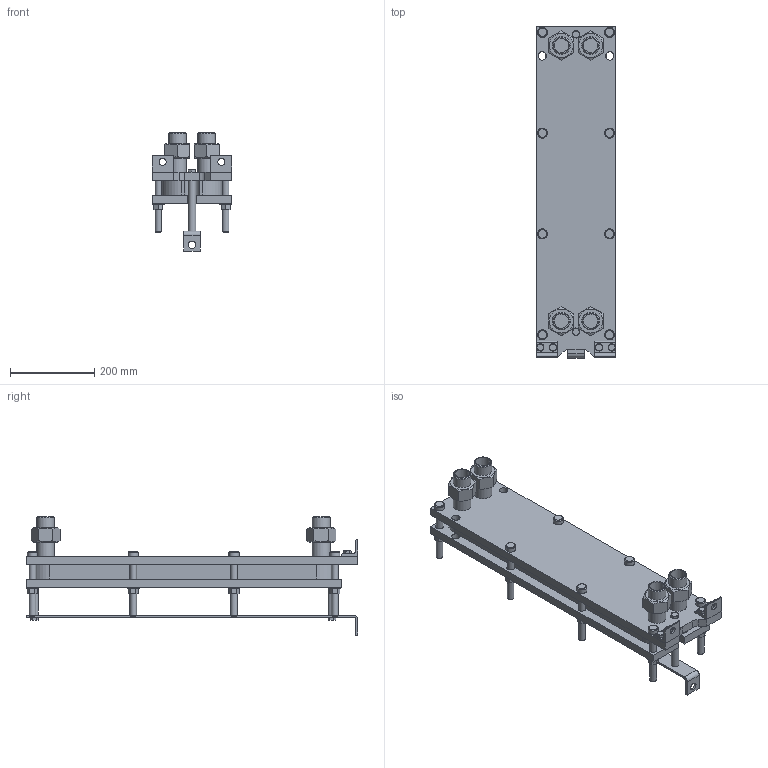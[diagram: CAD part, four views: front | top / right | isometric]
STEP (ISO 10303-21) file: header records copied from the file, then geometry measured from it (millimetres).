
FILE_DESCRIPTION(/* description */ (''),/* implementation_level */ '2;1');
FILE_NAME(/* name */ 'C:\Users\zhuro\Desktop\ENCO\TO\ЭН-008\ЭН-0,5-008-11-1.stp',/* time_stamp */ '2022-06-06T10:45:50+03:00',/* author */ ('zhuro'),/* organization */ (''),/* preprocessor_version */ 'ST-DEVELOPER v18.1',/* originating_system */ 'Autodesk Inventor 2022',/* authorisation */ '');
FILE_SCHEMA (('AUTOMOTIVE_DESIGN { 1 0 10303 214 3 1 1 }'));
Length unit declared in the file: millimetre
Products named in the file (1): ЭН-0,5-008-11-1
Bounding box: 190 x 790 x 281.8 mm (x, y, z)
Volume: 10071889.2 mm3; surface area: 1268688.9 mm2
Topology: 40 solids, 40 shells, 428 faces, 924 edges, 606 vertices
Faces by surface type: plane 273, cylinder 109, cone 40, torus 6
Full cylindrical faces by diameter (mm): 12 x6, 14 x2, 16 x20, 17 x8, 18 x19, 20 x5, 24 x8, 28 x8, 34.3 x8, 42.3 x8
Entity records: 15843 total; most frequent: CARTESIAN_POINT 5991, DIRECTION 1984, ORIENTED_EDGE 1848, EDGE_CURVE 924, AXIS2_PLACEMENT_3D 715, VERTEX_POINT 606, LINE 554, VECTOR 554
